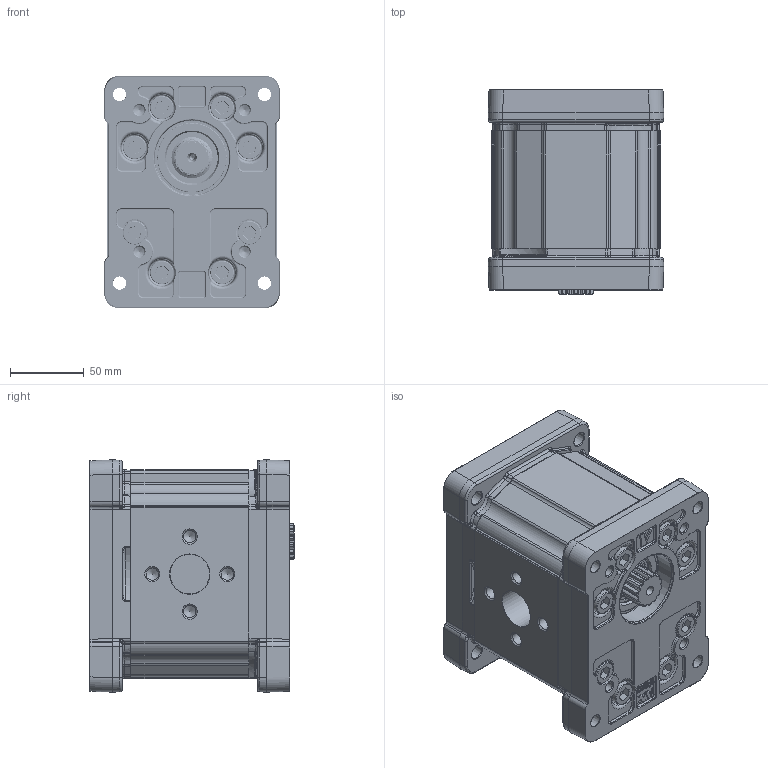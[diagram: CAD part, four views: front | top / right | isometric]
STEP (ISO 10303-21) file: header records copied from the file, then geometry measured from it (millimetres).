
FILE_DESCRIPTION(/* description */ ('Unknown'),/* implementation_level */ '2;1');
FILE_NAME(/* name */ 'X3I7401DBBA',/* time_stamp */ '2026-06-04T20:05:29+02:00',/* author */ ('Unknown'),/* organization */ ('Unknown'),/* preprocessor_version */ 'ST-DEVELOPER v16.7',/* originating_system */ 'Solid Edge',/* authorisation */ 'Unknown');
FILE_SCHEMA (('AUTOMOTIVE_DESIGN {1 0 10303 214 3 1 1}'));
Products named in the file (5): X3I7401DBBA; X3I01; 3D; X3BBH80; XI301-A
Assembly tree (4 placements, depth 2):
  X3I7401DBBA
    X3I01
    3D
    X3BBH80
    XI301-A
Bounding box: 119.2 x 139 x 157.8 mm (x, y, z)
Volume: 1998663 mm3; surface area: 240420.3 mm2
Topology: 5 solids, 6 shells, 4004 faces, 12515 edges, 7820 vertices
Faces by surface type: cylinder 1819, plane 1297, bspline 350, torus 278, cone 248, sphere 12
Full cylindrical faces by diameter (mm): 6.8 x8, 8.376 x8, 9.007 x8, 10 x16, 10.35 x32, 15.8 x16, 16 x16, 17 x4, 20.5 x2, 24.98 x2, 25 x2, 25.968 x1, 27 x2, 28.16 x1, 31.293 x1, 32.742 x1, 34.956 x1, 35 x2, 46.8 x2, 50.8 x2
Entity records: 195495 total; most frequent: CARTESIAN_POINT 64605, ORIENTED_EDGE 23810, DIRECTION 19796, EDGE_CURVE 11905, AXIS2_PLACEMENT_3D 7787, VERTEX_POINT 7630, FACE_BOUND 4541, EDGE_LOOP 4522
